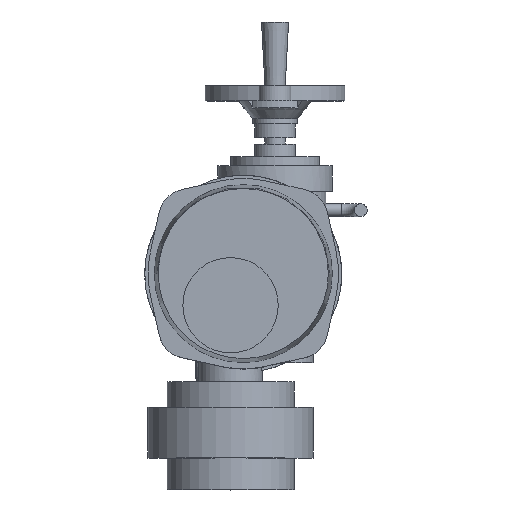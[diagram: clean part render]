
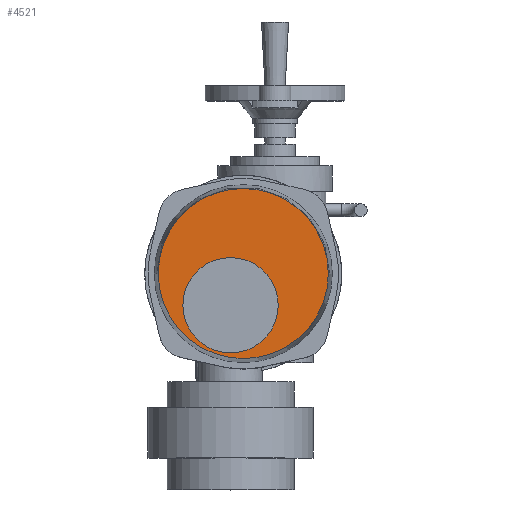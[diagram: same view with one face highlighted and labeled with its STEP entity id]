
A CAD part, top view. The second image highlights one B-rep face of the part: STEP entity #4521.
In plain terms, the highlighted planar face has unit normal (0, 0, 1).
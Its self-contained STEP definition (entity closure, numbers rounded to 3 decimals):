
#4521=ADVANCED_FACE('',(#10206,#10208),#10210,.T.);
#10206=FACE_BOUND('',#10207,.T.);
#10207=EDGE_LOOP('',(#14299));
#10208=FACE_BOUND('',#10209,.T.);
#10209=EDGE_LOOP('',(#14300));
#10210=PLANE('',#10211);
#10211=AXIS2_PLACEMENT_3D('',#10212,#10213,#10214);
#10212=CARTESIAN_POINT('',(15.,30.,392.));
#10213=DIRECTION('',(0.,0.,1.));
#10214=DIRECTION('',(-1.,0.,0.));
#14299=ORIENTED_EDGE('',*,*,#16489,.T.);
#14300=ORIENTED_EDGE('',*,*,#17243,.F.);
#16489=EDGE_CURVE('',#19037,#19037,#19038,.T.);
#17243=EDGE_CURVE('',#20168,#20168,#20169,.T.);
#19037=VERTEX_POINT('',#24938);
#19038=CIRCLE('',#24939,66.908);
#20168=VERTEX_POINT('',#27863);
#20169=CIRCLE('',#27864,37.5);
#24938=CARTESIAN_POINT('',(-51.908,30.,392.));
#24939=AXIS2_PLACEMENT_3D('',#24940,#24941,#24942);
#24940=CARTESIAN_POINT('',(15.,30.,392.));
#24941=DIRECTION('',(0.,0.,1.));
#24942=DIRECTION('',(-1.,0.,0.));
#27863=CARTESIAN_POINT('',(-32.5,5.,392.));
#27864=AXIS2_PLACEMENT_3D('',#27865,#27866,#27867);
#27865=CARTESIAN_POINT('',(5.,5.,392.));
#27866=DIRECTION('',(0.,0.,1.));
#27867=DIRECTION('',(-1.,0.,0.));
